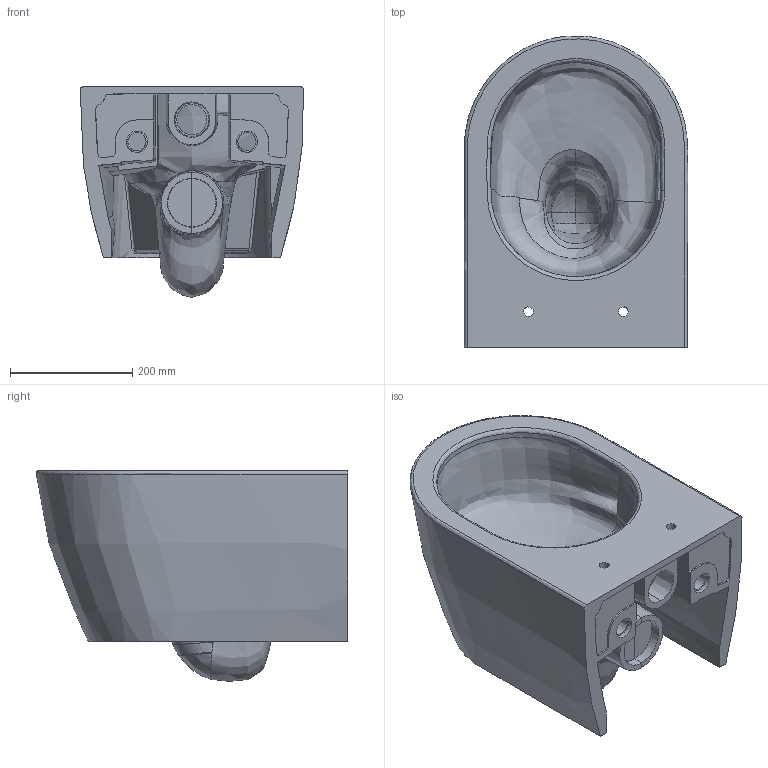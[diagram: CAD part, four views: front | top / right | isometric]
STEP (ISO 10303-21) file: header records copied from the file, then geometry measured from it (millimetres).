
FILE_DESCRIPTION(/* description */ (''),/* implementation_level */ '2;1');
FILE_NAME(/* name */ 'ART520~1',/* time_stamp */ '2024-09-09T16:39:28+02:00',/* author */ (''),/* organization */ (''),/* preprocessor_version */ 'ST-DEVELOPER v16.5',/* originating_system */ '',/* authorisation */ '');
FILE_SCHEMA (('CONFIG_CONTROL_DESIGN'));
Length unit declared in the file: millimetre
Products named in the file (1): Document
Bounding box: 365.56 x 509.71 x 344.72 mm (x, y, z)
Surface area: 1174700.3 mm2 (no closed solid volume)
Topology: 0 solids, 1 shells, 159 faces, 475 edges, 259 vertices
Faces by surface type: bspline 142, plane 17
Entity records: 19051 total; most frequent: CARTESIAN_POINT 16261, ORIENTED_EDGE 835, EDGE_CURVE 473, B_SPLINE_CURVE_WITH_KNOTS 451, VERTEX_POINT 259, EDGE_LOOP 170, ADVANCED_FACE 157, FACE_OUTER_BOUND 157
